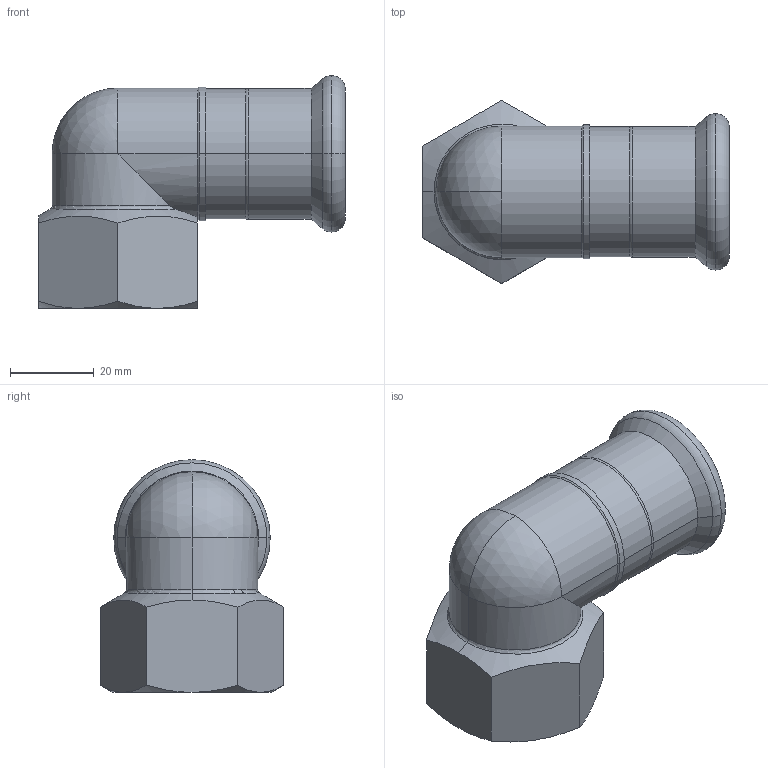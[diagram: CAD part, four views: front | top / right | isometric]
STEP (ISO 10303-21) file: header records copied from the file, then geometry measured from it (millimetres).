
FILE_DESCRIPTION(('OneSpaceDesigner STEP Export'),'2;1');
FILE_NAME('R2709 28xG1.stp','2010-06-09T14:47:32',(''),(''),'OneSpace Designer STEP processor for AP214 (Solid Model)','OneSpace Modeling 15.00A 14-Mar-2007 (C) CoCreate Software GmbH','');
FILE_SCHEMA(('AUTOMOTIVE_DESIGN { 1 0 10303 214 1 1 1 1 }'));
Length unit declared in the file: millimetre
Products named in the file (2): R2709_28xG1
Assembly tree (1 placements, depth 2):
  R2709_28xG1
    R2709_28xG1
Bounding box: 73.5 x 43.88 x 55.73 mm (x, y, z)
Volume: 26007.4 mm3; surface area: 19827.2 mm2
Topology: 1 solids, 1 shells, 95 faces, 231 edges, 142 vertices
Faces by surface type: plane 40, cylinder 31, cone 12, torus 8, sphere 4
Entity records: 3547 total; most frequent: CARTESIAN_POINT 1515, ORIENTED_EDGE 454, DIRECTION 347, EDGE_CURVE 227, VERTEX_POINT 142, AXIS2_PLACEMENT_3D 120, EDGE_LOOP 111, VECTOR 107
